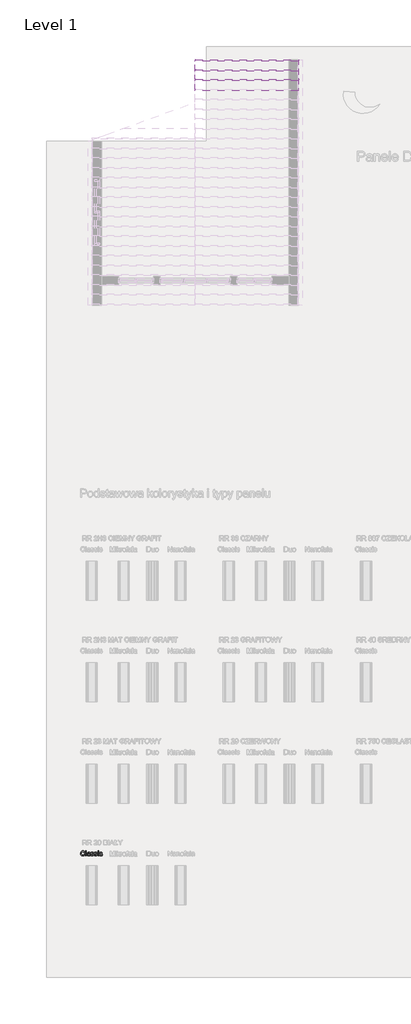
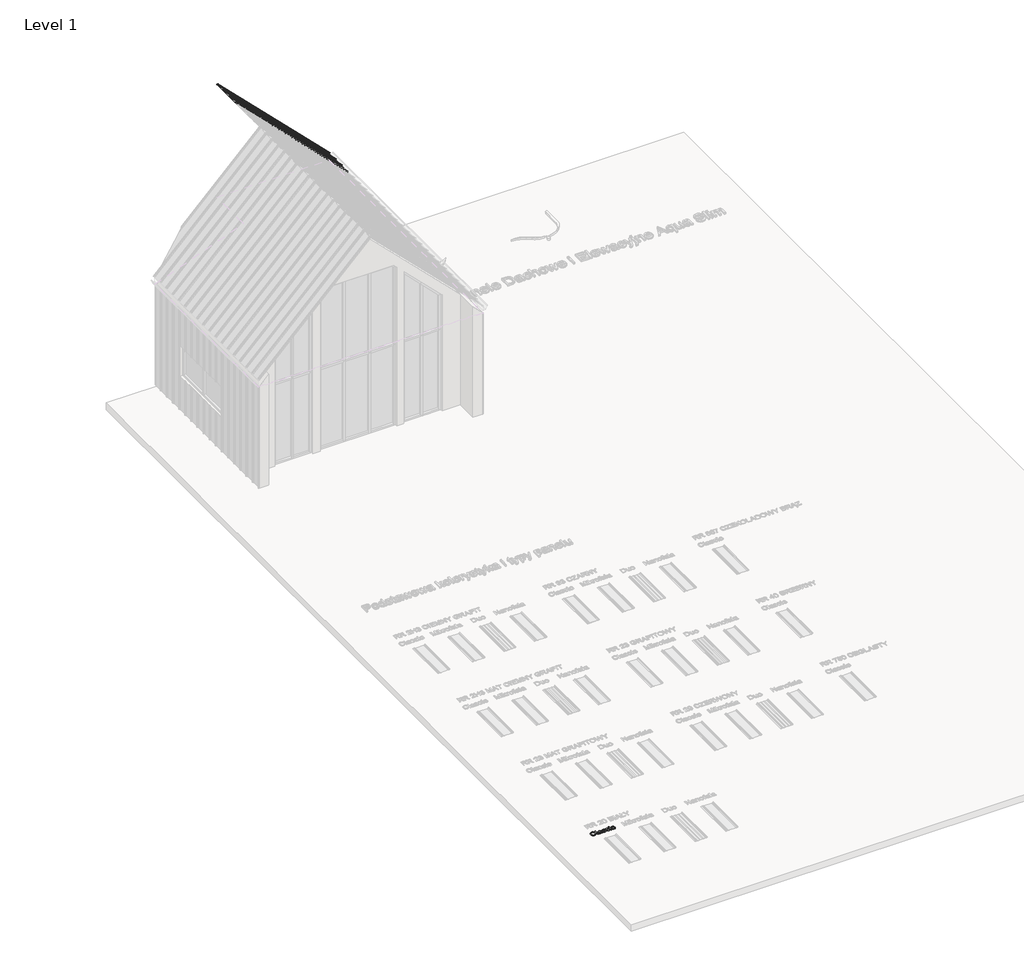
# One storey, part 9 of 24: 13 proxies.
"""IFC4 building model written with IfcOpenShell, lengths in millimetres."""

from ifc_helpers import new_model, si_unit, point, frame, frame_2d, origin, place, context, project, spatial, polyline, circle_curve, trimmed, segment, composite_curve, outline, extrude, transform, mapped, element, save
from components import aqua_slim_1cb284e8, aqua_slim_2f3ffec5

model = new_model("IFC4")

# Units and contexts
model_context = context("Model", 3, world=origin())
ifc_project = project(units=[si_unit("LENGTHUNIT", "METRE", prefix="MILLI")], contexts=[model_context])

# Site, building, storey
site = spatial("IfcSite", under=ifc_project)
building = spatial("IfcBuilding", under=site)
storey = spatial("IfcBuildingStorey", under=building, Name="Level 1", Elevation=0.0)

# Proxies
placement = place(None, origin())
element("IfcBuildingElementProxy", 1, Name="150", ObjectType="150", at=placement, inside=storey, context=model_context, shape_type="SweptSolid", body=[
    extrude(outline(polyline([(-8679.0085992, -8117.1818641), (-8660.1730411, -8122.0379064), (-8668.8642532, -8143.986666), (-8682.5034782, -8160.0217224), (-8700.4193314, -8169.8303761), (-8721.9404281, -8173.0999274), (-8743.7880201, -8170.6259209), (-8761.1382547, -8163.2039017), (-8774.4371888, -8151.091387), (-8784.1308794, -8134.5458943), (-8790.049181, -8115.0941338), (-8792.0219482, -8094.2628158), (-8789.7916636, -8072.2910636), (-8783.1008098, -8053.3175497), (-8772.2988747, -8037.9446809), (-8757.7353462, -8026.7748638), (-8740.4632865, -8019.9736454), (-8721.5357579, -8017.7065726), (-8700.8837824, -8020.6404315), (-8683.8094593, -8029.4420082), (-8670.8462175, -8043.5686769), (-8662.5274859, -8062.4778114), (-8681.363044, -8066.9659718), (-8687.8929494, -8053.2301778), (-8696.8140878, -8043.8078002), (-8708.2368238, -8038.3585481), (-8722.2715219, -8036.5421308), (-8738.4491326, -8038.5562847), (-8751.7388697, -8044.5987464), (-8761.8234349, -8054.0349196), (-8768.38553, -8066.2302078), (-8773.18639, -8094.2260276), (-8771.7654458, -8111.626846), (-8767.5026132, -8126.6732196), (-8760.2369438, -8138.7903328), (-8749.8074892, -8147.40337), (-8737.3040999, -8152.5491194), (-8723.8166263, -8154.2643692), (-8708.0942695, -8151.9283185), (-8694.9930719, -8144.9201665), (-8685.1016448, -8133.3134896), (-8679.0085992, -8117.1818641)])), frame((0.0, 0.0, 600.0), z_axis=(0.0, 0.0, 1.0), x_axis=(1.0, 0.0, 0.0)), (0.0, 0.0, 1.0), 10.0),
    extrude(outline(polyline([(-8636.6285934, -8170.7454826), (-8636.6285934, -8020.0610174), (-8617.7930352, -8020.0610174), (-8617.7930352, -8170.7454826), (-8636.6285934, -8170.7454826)])), frame((0.0, 0.0, 600.0), z_axis=(0.0, 0.0, 1.0), x_axis=(1.0, 0.0, 0.0)), (0.0, 0.0, 1.0), 10.0),
    extrude(outline(polyline([(-8518.9063549, -8156.618814), (-8537.171696, -8169.3843192), (-8557.3500234, -8173.0999274), (-8573.0907743, -8170.8650442), (-8584.7020498, -8164.1603949), (-8591.8619531, -8153.9792607), (-8594.2485875, -8141.314923), (-8590.643344, -8126.4157022), (-8581.1703826, -8115.5999715), (-8567.9818131, -8109.419554), (-8551.6846407, -8106.5868626), (-8519.0167195, -8100.1121395), (-8518.9063549, -8095.9182848), (-8520.203139, -8087.5121812), (-8524.0934911, -8082.0123454), (-8532.7939003, -8077.9288552), (-8544.915612, -8076.5676918), (-8563.9718993, -8080.1913295), (-8573.0585846, -8093.0488052), (-8591.8941428, -8090.6943604), (-8583.7455566, -8072.3002607), (-8567.3380196, -8061.5213182), (-8542.4875908, -8057.7321337), (-8519.660513, -8061.0798598), (-8506.7662491, -8069.4859634), (-8500.9905018, -8082.2698628), (-8500.0707968, -8098.7509761), (-8500.0707968, -8122.1850592), (-8499.1143036, -8154.9081627), (-8495.3619072, -8170.7454826), (-8514.1974654, -8170.7454826), (-8518.9063549, -8156.618814)]), holes=[polyline([(-8518.9063549, -8118.9476977), (-8549.2934077, -8124.723445), (-8565.4986096, -8127.7768656), (-8572.8378554, -8132.7432725), (-8575.4130294, -8139.9905478), (-8569.802829, -8150.1808791), (-8553.3401097, -8154.2643692), (-8534.2838223, -8149.7578148), (-8521.9965637, -8138.8501136), (-8519.0167195, -8124.2819866), (-8518.9063549, -8118.9476977)])]), frame((0.0, 0.0, 600.0), z_axis=(0.0, 0.0, 1.0), x_axis=(1.0, 0.0, 0.0)), (0.0, 0.0, 1.0), 10.0),
    extrude(outline(polyline([(-8481.2352386, -8137.7832558), (-8462.3996805, -8135.4288111), (-8459.4290334, -8143.4854268), (-8453.6808772, -8149.4083269), (-8433.7048849, -8154.2643692), (-8414.5014447, -8149.8129971), (-8408.2474508, -8139.3651484), (-8409.8201463, -8134.5642884), (-8414.5382329, -8130.9038625), (-8433.9256141, -8125.5327854), (-8462.2893159, -8116.3173414), (-8474.668545, -8105.5567931), (-8478.8807939, -8090.3632666), (-8475.4962795, -8076.3285685), (-8466.2624414, -8065.6048084), (-8454.2878825, -8060.0313961), (-8438.0826806, -8057.7321337), (-8415.1636323, -8061.4293477), (-8400.5955053, -8071.435738), (-8394.1207822, -8088.3399157), (-8412.9563403, -8090.6943604), (-8420.0380687, -8080.3016941), (-8436.6111526, -8076.5676918), (-8454.6373704, -8080.1361472), (-8460.0452357, -8088.4502803), (-8457.8011555, -8093.931722), (-8450.7746094, -8098.0887885), (-8434.5510134, -8102.0987023), (-8406.9046815, -8110.9646584), (-8394.0655999, -8121.0078368), (-8389.4118926, -8137.3785856), (-8394.8749403, -8155.4048034), (-8410.6386838, -8168.4830083), (-8433.9624023, -8173.0999274), (-8452.9543103, -8170.8742413), (-8466.8142644, -8164.1971831), (-8476.0664966, -8153.1423291), (-8481.2352386, -8137.7832558)])), frame((0.0, 0.0, 600.0), z_axis=(0.0, 0.0, 1.0), x_axis=(1.0, 0.0, 0.0)), (0.0, 0.0, 1.0), 10.0),
    extrude(outline(polyline([(-8375.285224, -8137.7832558), (-8356.4496659, -8135.4288111), (-8353.4790188, -8143.4854268), (-8347.7308626, -8149.4083269), (-8327.7548702, -8154.2643692), (-8308.5514301, -8149.8129971), (-8302.2974362, -8139.3651484), (-8303.8701317, -8134.5642884), (-8308.5882183, -8130.9038625), (-8327.9755994, -8125.5327854), (-8356.3393013, -8116.3173414), (-8368.7185304, -8105.5567931), (-8372.9307793, -8090.3632666), (-8369.5462649, -8076.3285685), (-8360.3124268, -8065.6048084), (-8348.3378679, -8060.0313961), (-8332.132666, -8057.7321337), (-8309.2136177, -8061.4293477), (-8294.6454907, -8071.435738), (-8288.1707676, -8088.3399157), (-8307.0063257, -8090.6943604), (-8314.0880541, -8080.3016941), (-8330.661138, -8076.5676918), (-8348.6873558, -8080.1361472), (-8354.0952211, -8088.4502803), (-8351.8511409, -8093.931722), (-8344.8245948, -8098.0887885), (-8328.6009988, -8102.0987023), (-8300.9546669, -8110.9646584), (-8288.1155853, -8121.0078368), (-8283.461878, -8137.3785856), (-8288.9249257, -8155.4048034), (-8304.6886691, -8168.4830083), (-8328.0123876, -8173.0999274), (-8347.0042956, -8170.8742413), (-8360.8642498, -8164.1971831), (-8370.116482, -8153.1423291), (-8375.285224, -8137.7832558)])), frame((0.0, 0.0, 600.0), z_axis=(0.0, 0.0, 1.0), x_axis=(1.0, 0.0, 0.0)), (0.0, 0.0, 1.0), 10.0),
    extrude(outline(polyline([(-8262.2718751, -8038.8965755), (-8262.2718751, -8020.0610174), (-8243.4363169, -8020.0610174), (-8243.4363169, -8038.8965755), (-8262.2718751, -8038.8965755)])), frame((0.0, 0.0, 600.0), z_axis=(0.0, 0.0, 1.0), x_axis=(1.0, 0.0, 0.0)), (0.0, 0.0, 1.0), 10.0),
    extrude(outline(polyline([(-8262.2718751, -8170.7454826), (-8262.2718751, -8060.0865784), (-8243.4363169, -8060.0865784), (-8243.4363169, -8170.7454826), (-8262.2718751, -8170.7454826)])), frame((0.0, 0.0, 600.0), z_axis=(0.0, 0.0, 1.0), x_axis=(1.0, 0.0, 0.0)), (0.0, 0.0, 1.0), 10.0),
    extrude(outline(polyline([(-8144.5496366, -8130.7199215), (-8125.7140785, -8133.0743663), (-8130.965594, -8149.8267926), (-8140.8340285, -8162.4865318), (-8154.39048, -8170.4465785), (-8170.7060465, -8173.0999274), (-8190.7418197, -8169.3981148), (-8206.4089941, -8158.2926771), (-8216.5211505, -8140.2710578), (-8219.8918693, -8115.8207007), (-8218.452531, -8099.0590773), (-8214.134516, -8084.532337), (-8206.8688466, -8072.8014999), (-8196.5865449, -8064.427586), (-8184.2854906, -8059.4059968), (-8170.9635639, -8057.7321337), (-8155.0480691, -8060.0313961), (-8142.3239506, -8066.9291836), (-8133.1958786, -8078.0576139), (-8128.0685233, -8093.0488052), (-8146.9040814, -8095.40325), (-8155.6412788, -8081.2949755), (-8170.8164111, -8076.5676918), (-8182.9887066, -8078.8945454), (-8192.6502075, -8085.8751063), (-8198.9547852, -8097.8864535), (-8201.0563111, -8115.3056659), (-8199.0007705, -8132.9594032), (-8192.8341485, -8145.012137), (-8183.3473916, -8151.9513112), (-8171.3314459, -8154.2643692), (-8161.5779745, -8152.8204324), (-8153.5811396, -8148.4886219), (-8147.7640056, -8141.1585731), (-8144.5496366, -8130.7199215)])), frame((0.0, 0.0, 600.0), z_axis=(0.0, 0.0, 1.0), x_axis=(1.0, 0.0, 0.0)), (0.0, 0.0, 1.0), 10.0),
])
element("IfcBuildingElementProxy", 2, Name="AQUAPLAST - Panel Dachowy i Elewacyjny Aqua Slim : Aqua Slim", ObjectType="AQUAPLAST - Panel Dachowy i Elewacyjny Aqua Slim : Aqua Slim", at=placement, inside=storey, context=model_context, shape_type="SweptSolid", body=[
    extrude(outline(polyline([(0.0, 227.2000503), (4454.0, 227.2000503), (4454.0, 0.0), (0.0, 0.0), (0.0, 227.2000503)])), frame((-5286.5167864, 15293.4302375, 6945.4435021), z_axis=(0.7071067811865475, 0.0, 0.7071067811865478), x_axis=(0.7071067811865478, 0.0, -0.7071067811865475)), (0.0, 0.0, 1.0), 0.8),
    extrude(outline(composite_curve([segment(polyline([(1.6, -36.6), (0.8, -40.1), (0.0, -40.1), (0.8000601, -36.6), (0.8000601, -12.7000752)]), True, "CONTINUOUS"), segment(trimmed(circle_curve(frame_2d((1.2999699, -12.7000752)), 0.4999098), [point((0.8000601, -12.7000752))], [point((1.2999699, -12.2001654))], False, "CARTESIAN"), True, "CONTINUOUS"), segment(polyline([(1.2999699, -12.2001654), (23.7003195, -12.2001654)]), True, "CONTINUOUS"), segment(trimmed(circle_curve(frame_2d((23.7003195, -11.6998422)), 0.5003233), [point((23.7003195, -12.2001654))], [point((24.2006428, -11.6998422))], True, "CARTESIAN"), True, "CONTINUOUS"), segment(polyline([(24.2006428, -11.6998422), (24.2006428, -1.2033228)]), True, "CONTINUOUS"), segment(trimmed(circle_curve(frame_2d((23.6993591, -1.2033228)), 0.5012837), [point((24.2006428, -1.2033228))], [point((23.6993591, -0.7020391))], True, "CARTESIAN"), True, "CONTINUOUS"), segment(polyline([(23.6993591, -0.7020391), (9.7850119, -0.7020391)]), True, "CONTINUOUS"), segment(trimmed(circle_curve(frame_2d((9.7850119, -1.6460516)), 0.9440125), [point((9.7850119, -0.7020391))], [point((8.9478642, -1.2097679))], True, "CARTESIAN"), True, "CONTINUOUS"), segment(trimmed(circle_curve(frame_2d((5.4137845, -0.6808077)), 3.5734462), [point((8.9478642, -1.2097679))], [point((1.8403383, -0.6808077))], False, "CARTESIAN"), True, "CONTINUOUS"), segment(polyline([(1.8403383, -0.6808077), (2.6405793, -0.6808077)]), True, "CONTINUOUS"), segment(trimmed(circle_curve(frame_2d((5.3847864, -0.6808077)), 2.7442071), [point((2.6405793, -0.6808077))], [point((8.1289934, -0.6808077))], True, "CARTESIAN"), True, "CONTINUOUS"), segment(trimmed(circle_curve(frame_2d((8.8039224, -0.6749544)), 0.6749543), [point((8.1289934, -0.6808077))], [point((8.8039224, 0.0))], False, "CARTESIAN"), True, "CONTINUOUS"), segment(polyline([(8.8039224, 0.0), (24.5, 0.0)]), True, "CONTINUOUS"), segment(trimmed(circle_curve(frame_2d((24.5, -0.5)), 0.5), [point((24.5, 0.0))], [point((25.0, -0.5))], False, "CARTESIAN"), True, "CONTINUOUS"), segment(polyline([(25.0, -0.5), (25.0, -12.5)]), True, "CONTINUOUS"), segment(trimmed(circle_curve(frame_2d((24.5, -12.5)), 0.5), [point((25.0, -12.5))], [point((24.5, -13.0))], False, "CARTESIAN"), True, "CONTINUOUS"), segment(polyline([(24.5, -13.0), (2.1, -13.0)]), True, "CONTINUOUS"), segment(trimmed(circle_curve(frame_2d((2.1, -13.5)), 0.5), [point((2.1, -13.0))], [point((1.6, -13.5))], True, "CARTESIAN"), True, "CONTINUOUS"), segment(polyline([(1.6, -13.5), (1.6, -36.6)]), True, "CONTINUOUS")], self_intersect=False)), frame((-2137.063183, 15560.7302878, 3795.9898987), z_axis=(-0.7071067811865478, 0.0, 0.7071067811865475), x_axis=(0.7071067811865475, 0.0, 0.7071067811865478)), (0.0, 0.0, 1.0), 4454.0),
    extrude(outline(composite_curve([segment(polyline([(0.8, 0.0), (0.0, 0.0), (0.0, 30.3277327)]), True, "CONTINUOUS"), segment(trimmed(circle_curve(frame_2d((0.7400208, 30.3277327)), 0.7400208), [point((0.0, 30.3277327))], [point((0.6241817, 31.0586308))], False, "CARTESIAN"), True, "CONTINUOUS"), segment(polyline([(0.6241817, 31.0586308), (18.4803327, 33.8886302)]), True, "CONTINUOUS"), segment(trimmed(circle_curve(frame_2d((18.1818617, 35.771861)), 1.9067363), [point((18.4803327, 33.8886302))], [point((19.1352298, 37.4231431))], True, "CARTESIAN"), True, "CONTINUOUS"), segment(polyline([(19.1352298, 37.4231431), (11.8934079, 40.3349068)]), True, "CONTINUOUS"), segment(trimmed(circle_curve(frame_2d((11.2676679, 38.7786343)), 1.6773594), [point((11.8934079, 40.3349068))], [point((9.7513874, 39.4958707))], True, "CARTESIAN"), True, "CONTINUOUS"), segment(trimmed(circle_curve(frame_2d((5.5014361, 41.5061979)), 4.7014361), [point((9.7513874, 39.4958707))], [point((0.8, 41.5061979))], False, "CARTESIAN"), True, "CONTINUOUS"), segment(polyline([(0.8, 41.5061979), (0.8, 69.1999497), (0.0, 72.6999497), (0.8, 72.6999497), (1.6, 69.1999497), (1.6, 41.3470224)]), True, "CONTINUOUS"), segment(trimmed(circle_curve(frame_2d((5.4667311, 41.3470224)), 3.8667311), [point((1.6, 41.3470224))], [point((9.0024093, 39.7815866))], True, "CARTESIAN"), True, "CONTINUOUS"), segment(trimmed(circle_curve(frame_2d((11.2676679, 38.7786343)), 2.4773594), [point((9.0024093, 39.7815866))], [point((12.1941629, 41.0762236))], False, "CARTESIAN"), True, "CONTINUOUS"), segment(polyline([(12.1941629, 41.0762236), (19.5352299, 38.1159634)]), True, "CONTINUOUS"), segment(trimmed(circle_curve(frame_2d((18.1818617, 35.771861)), 2.7067363), [point((19.5352299, 38.1159634))], [point((18.7653554, 33.1287651))], False, "CARTESIAN"), True, "CONTINUOUS"), segment(polyline([(18.7653554, 33.1287651), (1.3501315, 30.0958084)]), True, "CONTINUOUS"), segment(trimmed(circle_curve(frame_2d((1.4640676, 29.441588)), 0.6640676), [point((1.3501315, 30.0958084))], [point((0.8, 29.441588))], True, "CARTESIAN"), True, "CONTINUOUS"), segment(polyline([(0.8, 29.441588), (0.8, 0.0)]), True, "CONTINUOUS")], self_intersect=False)), frame((-2137.063183, 15220.7302878, 3795.9898987), z_axis=(-0.7071067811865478, 0.0, 0.7071067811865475), x_axis=(0.7071067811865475, 0.0, 0.7071067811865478)), (0.0, 0.0, 1.0), 4454.0),
])
element("IfcBuildingElementProxy", 3, Name="AQUAPLAST - Panel Dachowy i Elewacyjny Aqua Slim : Aqua Slim", ObjectType="AQUAPLAST - Panel Dachowy i Elewacyjny Aqua Slim : Aqua Slim", at=placement, inside=storey, context=model_context, shape_type="SweptSolid", body=[
    extrude(outline(polyline([(0.0, 227.2000503), (4454.0, 227.2000503), (4454.0, 0.0), (0.0, 0.0), (0.0, 227.2000503)])), frame((-5286.5167864, 15591.4302375, 6945.4435021), z_axis=(0.7071067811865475, 0.0, 0.7071067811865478), x_axis=(0.7071067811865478, 0.0, -0.7071067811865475)), (0.0, 0.0, 1.0), 0.8),
    extrude(outline(composite_curve([segment(polyline([(1.6, -36.6), (0.8, -40.1), (0.0, -40.1), (0.8000601, -36.6), (0.8000601, -12.7000752)]), True, "CONTINUOUS"), segment(trimmed(circle_curve(frame_2d((1.2999699, -12.7000752)), 0.4999098), [point((0.8000601, -12.7000752))], [point((1.2999699, -12.2001654))], False, "CARTESIAN"), True, "CONTINUOUS"), segment(polyline([(1.2999699, -12.2001654), (23.7003195, -12.2001654)]), True, "CONTINUOUS"), segment(trimmed(circle_curve(frame_2d((23.7003195, -11.6998422)), 0.5003233), [point((23.7003195, -12.2001654))], [point((24.2006428, -11.6998422))], True, "CARTESIAN"), True, "CONTINUOUS"), segment(polyline([(24.2006428, -11.6998422), (24.2006428, -1.2033228)]), True, "CONTINUOUS"), segment(trimmed(circle_curve(frame_2d((23.6993591, -1.2033228)), 0.5012837), [point((24.2006428, -1.2033228))], [point((23.6993591, -0.7020391))], True, "CARTESIAN"), True, "CONTINUOUS"), segment(polyline([(23.6993591, -0.7020391), (9.7850119, -0.7020391)]), True, "CONTINUOUS"), segment(trimmed(circle_curve(frame_2d((9.7850119, -1.6460516)), 0.9440125), [point((9.7850119, -0.7020391))], [point((8.9478642, -1.2097679))], True, "CARTESIAN"), True, "CONTINUOUS"), segment(trimmed(circle_curve(frame_2d((5.4137845, -0.6808077)), 3.5734462), [point((8.9478642, -1.2097679))], [point((1.8403383, -0.6808077))], False, "CARTESIAN"), True, "CONTINUOUS"), segment(polyline([(1.8403383, -0.6808077), (2.6405793, -0.6808077)]), True, "CONTINUOUS"), segment(trimmed(circle_curve(frame_2d((5.3847864, -0.6808077)), 2.7442071), [point((2.6405793, -0.6808077))], [point((8.1289934, -0.6808077))], True, "CARTESIAN"), True, "CONTINUOUS"), segment(trimmed(circle_curve(frame_2d((8.8039224, -0.6749544)), 0.6749543), [point((8.1289934, -0.6808077))], [point((8.8039224, 0.0))], False, "CARTESIAN"), True, "CONTINUOUS"), segment(polyline([(8.8039224, 0.0), (24.5, 0.0)]), True, "CONTINUOUS"), segment(trimmed(circle_curve(frame_2d((24.5, -0.5)), 0.5), [point((24.5, 0.0))], [point((25.0, -0.5))], False, "CARTESIAN"), True, "CONTINUOUS"), segment(polyline([(25.0, -0.5), (25.0, -12.5)]), True, "CONTINUOUS"), segment(trimmed(circle_curve(frame_2d((24.5, -12.5)), 0.5), [point((25.0, -12.5))], [point((24.5, -13.0))], False, "CARTESIAN"), True, "CONTINUOUS"), segment(polyline([(24.5, -13.0), (2.1, -13.0)]), True, "CONTINUOUS"), segment(trimmed(circle_curve(frame_2d((2.1, -13.5)), 0.5), [point((2.1, -13.0))], [point((1.6, -13.5))], True, "CARTESIAN"), True, "CONTINUOUS"), segment(polyline([(1.6, -13.5), (1.6, -36.6)]), True, "CONTINUOUS")], self_intersect=False)), frame((-2137.063183, 15858.7302878, 3795.9898987), z_axis=(-0.7071067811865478, 0.0, 0.7071067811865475), x_axis=(0.7071067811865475, 0.0, 0.7071067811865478)), (0.0, 0.0, 1.0), 4454.0),
    extrude(outline(composite_curve([segment(polyline([(0.8, 0.0), (0.0, 0.0), (0.0, 30.3277327)]), True, "CONTINUOUS"), segment(trimmed(circle_curve(frame_2d((0.7400208, 30.3277327)), 0.7400208), [point((0.0, 30.3277327))], [point((0.6241817, 31.0586308))], False, "CARTESIAN"), True, "CONTINUOUS"), segment(polyline([(0.6241817, 31.0586308), (18.4803327, 33.8886302)]), True, "CONTINUOUS"), segment(trimmed(circle_curve(frame_2d((18.1818617, 35.771861)), 1.9067363), [point((18.4803327, 33.8886302))], [point((19.1352298, 37.4231431))], True, "CARTESIAN"), True, "CONTINUOUS"), segment(polyline([(19.1352298, 37.4231431), (11.8934079, 40.3349068)]), True, "CONTINUOUS"), segment(trimmed(circle_curve(frame_2d((11.2676679, 38.7786343)), 1.6773594), [point((11.8934079, 40.3349068))], [point((9.7513874, 39.4958707))], True, "CARTESIAN"), True, "CONTINUOUS"), segment(trimmed(circle_curve(frame_2d((5.5014361, 41.5061979)), 4.7014361), [point((9.7513874, 39.4958707))], [point((0.8, 41.5061979))], False, "CARTESIAN"), True, "CONTINUOUS"), segment(polyline([(0.8, 41.5061979), (0.8, 69.1999497), (0.0, 72.6999497), (0.8, 72.6999497), (1.6, 69.1999497), (1.6, 41.3470224)]), True, "CONTINUOUS"), segment(trimmed(circle_curve(frame_2d((5.4667311, 41.3470224)), 3.8667311), [point((1.6, 41.3470224))], [point((9.0024093, 39.7815866))], True, "CARTESIAN"), True, "CONTINUOUS"), segment(trimmed(circle_curve(frame_2d((11.2676679, 38.7786343)), 2.4773594), [point((9.0024093, 39.7815866))], [point((12.1941629, 41.0762236))], False, "CARTESIAN"), True, "CONTINUOUS"), segment(polyline([(12.1941629, 41.0762236), (19.5352299, 38.1159634)]), True, "CONTINUOUS"), segment(trimmed(circle_curve(frame_2d((18.1818617, 35.771861)), 2.7067363), [point((19.5352299, 38.1159634))], [point((18.7653554, 33.1287651))], False, "CARTESIAN"), True, "CONTINUOUS"), segment(polyline([(18.7653554, 33.1287651), (1.3501315, 30.0958084)]), True, "CONTINUOUS"), segment(trimmed(circle_curve(frame_2d((1.4640676, 29.441588)), 0.6640676), [point((1.3501315, 30.0958084))], [point((0.8, 29.441588))], True, "CARTESIAN"), True, "CONTINUOUS"), segment(polyline([(0.8, 29.441588), (0.8, 0.0)]), True, "CONTINUOUS")], self_intersect=False)), frame((-2137.063183, 15518.7302878, 3795.9898987), z_axis=(-0.7071067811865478, 0.0, 0.7071067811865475), x_axis=(0.7071067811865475, 0.0, 0.7071067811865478)), (0.0, 0.0, 1.0), 4454.0),
])
element("IfcBuildingElementProxy", 4, Name="AQUAPLAST - Panel Dachowy i Elewacyjny Aqua Slim : Aqua Slim", ObjectType="AQUAPLAST - Panel Dachowy i Elewacyjny Aqua Slim : Aqua Slim", at=placement, inside=storey, context=model_context, shape_type="SweptSolid", body=[
    extrude(outline(polyline([(0.0, 227.2000503), (4454.0, 227.2000503), (4454.0, 0.0), (0.0, 0.0), (0.0, 227.2000503)])), frame((-5286.5167864, 15889.4302375, 6945.4435021), z_axis=(0.7071067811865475, 0.0, 0.7071067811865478), x_axis=(0.7071067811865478, 0.0, -0.7071067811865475)), (0.0, 0.0, 1.0), 0.8),
    extrude(outline(composite_curve([segment(polyline([(1.6, -36.6), (0.8, -40.1), (0.0, -40.1), (0.8000601, -36.6), (0.8000601, -12.7000752)]), True, "CONTINUOUS"), segment(trimmed(circle_curve(frame_2d((1.2999699, -12.7000752)), 0.4999098), [point((0.8000601, -12.7000752))], [point((1.2999699, -12.2001654))], False, "CARTESIAN"), True, "CONTINUOUS"), segment(polyline([(1.2999699, -12.2001654), (23.7003195, -12.2001654)]), True, "CONTINUOUS"), segment(trimmed(circle_curve(frame_2d((23.7003195, -11.6998422)), 0.5003233), [point((23.7003195, -12.2001654))], [point((24.2006428, -11.6998422))], True, "CARTESIAN"), True, "CONTINUOUS"), segment(polyline([(24.2006428, -11.6998422), (24.2006428, -1.2033228)]), True, "CONTINUOUS"), segment(trimmed(circle_curve(frame_2d((23.6993591, -1.2033228)), 0.5012837), [point((24.2006428, -1.2033228))], [point((23.6993591, -0.7020391))], True, "CARTESIAN"), True, "CONTINUOUS"), segment(polyline([(23.6993591, -0.7020391), (9.7850119, -0.7020391)]), True, "CONTINUOUS"), segment(trimmed(circle_curve(frame_2d((9.7850119, -1.6460516)), 0.9440125), [point((9.7850119, -0.7020391))], [point((8.9478642, -1.2097679))], True, "CARTESIAN"), True, "CONTINUOUS"), segment(trimmed(circle_curve(frame_2d((5.4137845, -0.6808077)), 3.5734462), [point((8.9478642, -1.2097679))], [point((1.8403383, -0.6808077))], False, "CARTESIAN"), True, "CONTINUOUS"), segment(polyline([(1.8403383, -0.6808077), (2.6405793, -0.6808077)]), True, "CONTINUOUS"), segment(trimmed(circle_curve(frame_2d((5.3847864, -0.6808077)), 2.7442071), [point((2.6405793, -0.6808077))], [point((8.1289934, -0.6808077))], True, "CARTESIAN"), True, "CONTINUOUS"), segment(trimmed(circle_curve(frame_2d((8.8039224, -0.6749544)), 0.6749543), [point((8.1289934, -0.6808077))], [point((8.8039224, 0.0))], False, "CARTESIAN"), True, "CONTINUOUS"), segment(polyline([(8.8039224, 0.0), (24.5, 0.0)]), True, "CONTINUOUS"), segment(trimmed(circle_curve(frame_2d((24.5, -0.5)), 0.5), [point((24.5, 0.0))], [point((25.0, -0.5))], False, "CARTESIAN"), True, "CONTINUOUS"), segment(polyline([(25.0, -0.5), (25.0, -12.5)]), True, "CONTINUOUS"), segment(trimmed(circle_curve(frame_2d((24.5, -12.5)), 0.5), [point((25.0, -12.5))], [point((24.5, -13.0))], False, "CARTESIAN"), True, "CONTINUOUS"), segment(polyline([(24.5, -13.0), (2.1, -13.0)]), True, "CONTINUOUS"), segment(trimmed(circle_curve(frame_2d((2.1, -13.5)), 0.5), [point((2.1, -13.0))], [point((1.6, -13.5))], True, "CARTESIAN"), True, "CONTINUOUS"), segment(polyline([(1.6, -13.5), (1.6, -36.6)]), True, "CONTINUOUS")], self_intersect=False)), frame((-2137.063183, 16156.7302878, 3795.9898987), z_axis=(-0.7071067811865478, 0.0, 0.7071067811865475), x_axis=(0.7071067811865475, 0.0, 0.7071067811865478)), (0.0, 0.0, 1.0), 4454.0),
    extrude(outline(composite_curve([segment(polyline([(0.8, 0.0), (0.0, 0.0), (0.0, 30.3277327)]), True, "CONTINUOUS"), segment(trimmed(circle_curve(frame_2d((0.7400208, 30.3277327)), 0.7400208), [point((0.0, 30.3277327))], [point((0.6241817, 31.0586308))], False, "CARTESIAN"), True, "CONTINUOUS"), segment(polyline([(0.6241817, 31.0586308), (18.4803327, 33.8886302)]), True, "CONTINUOUS"), segment(trimmed(circle_curve(frame_2d((18.1818617, 35.771861)), 1.9067363), [point((18.4803327, 33.8886302))], [point((19.1352298, 37.4231431))], True, "CARTESIAN"), True, "CONTINUOUS"), segment(polyline([(19.1352298, 37.4231431), (11.8934079, 40.3349068)]), True, "CONTINUOUS"), segment(trimmed(circle_curve(frame_2d((11.2676679, 38.7786343)), 1.6773594), [point((11.8934079, 40.3349068))], [point((9.7513874, 39.4958707))], True, "CARTESIAN"), True, "CONTINUOUS"), segment(trimmed(circle_curve(frame_2d((5.5014361, 41.5061979)), 4.7014361), [point((9.7513874, 39.4958707))], [point((0.8, 41.5061979))], False, "CARTESIAN"), True, "CONTINUOUS"), segment(polyline([(0.8, 41.5061979), (0.8, 69.1999497), (0.0, 72.6999497), (0.8, 72.6999497), (1.6, 69.1999497), (1.6, 41.3470224)]), True, "CONTINUOUS"), segment(trimmed(circle_curve(frame_2d((5.4667311, 41.3470224)), 3.8667311), [point((1.6, 41.3470224))], [point((9.0024093, 39.7815866))], True, "CARTESIAN"), True, "CONTINUOUS"), segment(trimmed(circle_curve(frame_2d((11.2676679, 38.7786343)), 2.4773594), [point((9.0024093, 39.7815866))], [point((12.1941629, 41.0762236))], False, "CARTESIAN"), True, "CONTINUOUS"), segment(polyline([(12.1941629, 41.0762236), (19.5352299, 38.1159634)]), True, "CONTINUOUS"), segment(trimmed(circle_curve(frame_2d((18.1818617, 35.771861)), 2.7067363), [point((19.5352299, 38.1159634))], [point((18.7653554, 33.1287651))], False, "CARTESIAN"), True, "CONTINUOUS"), segment(polyline([(18.7653554, 33.1287651), (1.3501315, 30.0958084)]), True, "CONTINUOUS"), segment(trimmed(circle_curve(frame_2d((1.4640676, 29.441588)), 0.6640676), [point((1.3501315, 30.0958084))], [point((0.8, 29.441588))], True, "CARTESIAN"), True, "CONTINUOUS"), segment(polyline([(0.8, 29.441588), (0.8, 0.0)]), True, "CONTINUOUS")], self_intersect=False)), frame((-2137.063183, 15816.7302878, 3795.9898987), z_axis=(-0.7071067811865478, 0.0, 0.7071067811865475), x_axis=(0.7071067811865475, 0.0, 0.7071067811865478)), (0.0, 0.0, 1.0), 4454.0),
])
element("IfcBuildingElementProxy", 5, Name="AQUAPLAST - Panel Dachowy i Elewacyjny Aqua Slim : Aqua Slim", ObjectType="AQUAPLAST - Panel Dachowy i Elewacyjny Aqua Slim : Aqua Slim", at=placement, inside=storey, context=model_context, shape_type="SweptSolid", body=[
    extrude(outline(composite_curve([segment(polyline([(0.8, 0.0), (0.0, 0.0), (0.0, 30.3277327)]), True, "CONTINUOUS"), segment(trimmed(circle_curve(frame_2d((0.7400208, 30.3277327)), 0.7400208), [point((0.0, 30.3277327))], [point((0.6241817, 31.0586308))], False, "CARTESIAN"), True, "CONTINUOUS"), segment(polyline([(0.6241817, 31.0586308), (18.4803327, 33.8886302)]), True, "CONTINUOUS"), segment(trimmed(circle_curve(frame_2d((18.1818617, 35.771861)), 1.9067363), [point((18.4803327, 33.8886302))], [point((19.1352298, 37.4231431))], True, "CARTESIAN"), True, "CONTINUOUS"), segment(polyline([(19.1352298, 37.4231431), (11.8934079, 40.3349068)]), True, "CONTINUOUS"), segment(trimmed(circle_curve(frame_2d((11.2676679, 38.7786343)), 1.6773594), [point((11.8934079, 40.3349068))], [point((9.7513874, 39.4958707))], True, "CARTESIAN"), True, "CONTINUOUS"), segment(trimmed(circle_curve(frame_2d((5.5014361, 41.5061979)), 4.7014361), [point((9.7513874, 39.4958707))], [point((0.8, 41.5061979))], False, "CARTESIAN"), True, "CONTINUOUS"), segment(polyline([(0.8, 41.5061979), (0.8, 50.0), (1.6, 50.0), (1.6, 41.3470224)]), True, "CONTINUOUS"), segment(trimmed(circle_curve(frame_2d((5.4667311, 41.3470224)), 3.8667311), [point((1.6, 41.3470224))], [point((9.0024093, 39.7815866))], True, "CARTESIAN"), True, "CONTINUOUS"), segment(trimmed(circle_curve(frame_2d((11.2676679, 38.7786343)), 2.4773594), [point((9.0024093, 39.7815866))], [point((12.1941629, 41.0762236))], False, "CARTESIAN"), True, "CONTINUOUS"), segment(polyline([(12.1941629, 41.0762236), (19.5352299, 38.1159634)]), True, "CONTINUOUS"), segment(trimmed(circle_curve(frame_2d((18.1818617, 35.771861)), 2.7067363), [point((19.5352299, 38.1159634))], [point((18.7653554, 33.1287651))], False, "CARTESIAN"), True, "CONTINUOUS"), segment(polyline([(18.7653554, 33.1287651), (1.3501315, 30.0958084)]), True, "CONTINUOUS"), segment(trimmed(circle_curve(frame_2d((1.4640676, 29.441588)), 0.6640676), [point((1.3501315, 30.0958084))], [point((0.8, 29.441588))], True, "CARTESIAN"), True, "CONTINUOUS"), segment(polyline([(0.8, 29.441588), (0.8, 0.0)]), True, "CONTINUOUS")], self_intersect=False)), frame((-2137.063183, 16114.7302878, 3795.9898987), z_axis=(-0.7071067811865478, 0.0, 0.7071067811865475), x_axis=(0.7071067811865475, 0.0, 0.7071067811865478)), (0.0, 0.0, 1.0), 4454.0),
])
aqua_slim_shape = aqua_slim_1cb284e8(model_context)
element("IfcBuildingElementProxy", 6, Name="AQUAPLAST - Panel Dachowy i Elewacyjny Aqua Slim : Aqua Slim", ObjectType="AQUAPLAST - Panel Dachowy i Elewacyjny Aqua Slim : Aqua Slim", at=placement, inside=storey, context=model_context, shape_type="MappedRepresentation", body=[
    mapped(aqua_slim_shape, transform((-2152.063183, 14199.6494801, 600.0), x_axis=(0.0, 1.0, 0.0), y_axis=(0.0, 0.0, 1.0), z_axis=(1.0, 0.0, 0.0))),
])
element("IfcBuildingElementProxy", 7, Name="AQUAPLAST - Panel Dachowy i Elewacyjny Aqua Slim : Aqua Slim", ObjectType="AQUAPLAST - Panel Dachowy i Elewacyjny Aqua Slim : Aqua Slim", at=placement, inside=storey, context=model_context, shape_type="MappedRepresentation", body=[
    mapped(aqua_slim_shape, transform((-2152.063183, 14497.6494801, 600.0), x_axis=(0.0, 1.0, 0.0), y_axis=(0.0, 0.0, 1.0), z_axis=(1.0, 0.0, 0.0))),
])
element("IfcBuildingElementProxy", 8, Name="AQUAPLAST - Panel Dachowy i Elewacyjny Aqua Slim : Aqua Slim", ObjectType="AQUAPLAST - Panel Dachowy i Elewacyjny Aqua Slim : Aqua Slim", at=placement, inside=storey, context=model_context, shape_type="MappedRepresentation", body=[
    mapped(aqua_slim_shape, transform((-2152.063183, 14795.6494801, 600.0), x_axis=(0.0, 1.0, 0.0), y_axis=(0.0, 0.0, 1.0), z_axis=(1.0, 0.0, 0.0))),
])
element("IfcBuildingElementProxy", 9, Name="AQUAPLAST - Panel Dachowy i Elewacyjny Aqua Slim : Aqua Slim", ObjectType="AQUAPLAST - Panel Dachowy i Elewacyjny Aqua Slim : Aqua Slim", at=placement, inside=storey, context=model_context, shape_type="MappedRepresentation", body=[
    mapped(aqua_slim_shape, transform((-2152.063183, 15093.6494801, 600.0), x_axis=(0.0, 1.0, 0.0), y_axis=(0.0, 0.0, 1.0), z_axis=(1.0, 0.0, 0.0))),
])
element("IfcBuildingElementProxy", 10, Name="AQUAPLAST - Panel Dachowy i Elewacyjny Aqua Slim : Aqua Slim", ObjectType="AQUAPLAST - Panel Dachowy i Elewacyjny Aqua Slim : Aqua Slim", at=placement, inside=storey, context=model_context, shape_type="MappedRepresentation", body=[
    mapped(aqua_slim_shape, transform((-2152.063183, 15391.6494801, 600.0), x_axis=(0.0, 1.0, 0.0), y_axis=(0.0, 0.0, 1.0), z_axis=(1.0, 0.0, 0.0))),
])
element("IfcBuildingElementProxy", 11, Name="AQUAPLAST - Panel Dachowy i Elewacyjny Aqua Slim : Aqua Slim", ObjectType="AQUAPLAST - Panel Dachowy i Elewacyjny Aqua Slim : Aqua Slim", at=placement, inside=storey, context=model_context, shape_type="MappedRepresentation", body=[
    mapped(aqua_slim_shape, transform((-2152.063183, 15689.6494801, 600.0), x_axis=(0.0, 1.0, 0.0), y_axis=(0.0, 0.0, 1.0), z_axis=(1.0, 0.0, 0.0))),
])
element("IfcBuildingElementProxy", 12, Name="AQUAPLAST - Panel Dachowy i Elewacyjny Aqua Slim : Aqua Slim", ObjectType="AQUAPLAST - Panel Dachowy i Elewacyjny Aqua Slim : Aqua Slim", at=placement, inside=storey, context=model_context, shape_type="MappedRepresentation", body=[
    mapped(aqua_slim_shape, transform((-2152.063183, 15987.6494801, 600.0), x_axis=(0.0, 1.0, 0.0), y_axis=(0.0, 0.0, 1.0), z_axis=(1.0, 0.0, 0.0))),
])
aqua_slim_2_shape = aqua_slim_2f3ffec5(model_context)
element("IfcBuildingElementProxy", 13, Name="AQUAPLAST - Panel Dachowy i Elewacyjny Aqua Slim : Aqua Slim", ObjectType="AQUAPLAST - Panel Dachowy i Elewacyjny Aqua Slim : Aqua Slim", at=placement, inside=storey, context=model_context, shape_type="MappedRepresentation", body=[
    mapped(aqua_slim_2_shape, transform((-2152.063183, 16285.6494801, 600.0), x_axis=(0.0, 1.0, 0.0), y_axis=(0.0, 0.0, 1.0), z_axis=(1.0, 0.0, 0.0))),
])

save(model, "model.ifc")
